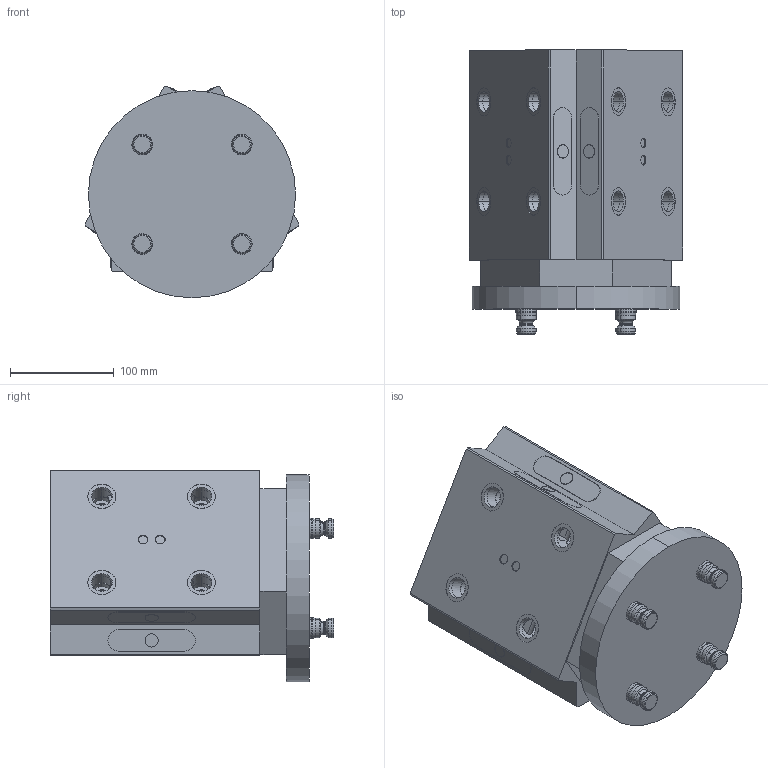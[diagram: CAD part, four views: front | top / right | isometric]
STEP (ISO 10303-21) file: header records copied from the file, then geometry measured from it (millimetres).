
FILE_DESCRIPTION (( 'STEP AP214' ), '1' );
FILE_NAME ('D_RL96A-T31.STEP', '2020-03-11T17:57:26', ( '' ), ( '' ), 'SwSTEP 2.0', 'SolidWorks 2018', '' );
FILE_SCHEMA (( 'AUTOMOTIVE_DESIGN' ));
Length unit declared in the file: millimetre
Products named in the file (3): D_RL96A-T31; D_PS20F_HARD TURN
Assembly tree (5 placements, depth 2):
  D_RL96A-T31
    D_RL96A-T31
    D_PS20F_HARD TURN  x4
Bounding box: 206.44 x 274 x 204.3 mm (x, y, z)
Volume: 5821104 mm3; surface area: 343788.4 mm2
Topology: 5 solids, 5 shells, 624 faces, 1417 edges, 892 vertices
Faces by surface type: cylinder 316, plane 192, torus 64, cone 52
Entity records: 17916 total; most frequent: CARTESIAN_POINT 3984, DIRECTION 2773, ORIENTED_EDGE 2354, EDGE_CURVE 1177, AXIS2_PLACEMENT_3D 1141, VERTEX_POINT 772, EDGE_LOOP 629, CIRCLE 626
